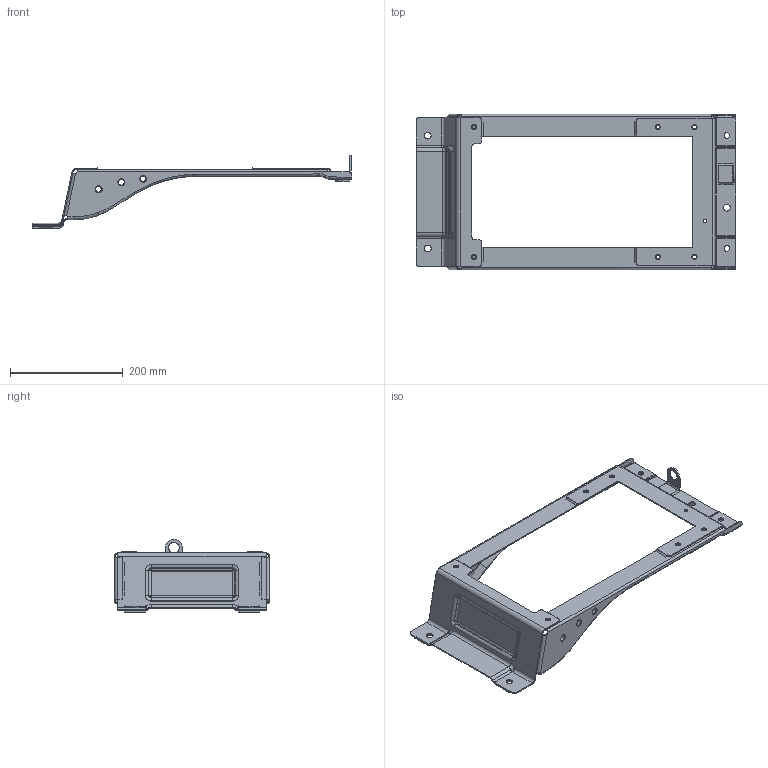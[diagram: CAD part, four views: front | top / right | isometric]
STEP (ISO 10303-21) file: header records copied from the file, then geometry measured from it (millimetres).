
FILE_DESCRIPTION(('CATIA V5 STEP Exchange'),'2;1');
FILE_NAME('F:\福田A6\1-数据\6-冻结数据\第三批\SHT0015987 中宽车底部支架焊接总成\SHT0015987-中宽车主驾驶底部支架焊接总成-20231208\SHT0015987.stp','2024-02-21T12:24:00+00:00',('none'),('none'),'CATIA Version 5 Release 20 GA (IN-10)','CATIA V5 STEP AP214','none');
FILE_SCHEMA(('AUTOMOTIVE_DESIGN { 1 0 10303 214 1 1 1 1 }'));
Length unit declared in the file: millimetre
Products named in the file (1): SHT0015987
Bounding box: 565.39 x 274.99 x 129.9 mm (x, y, z)
Volume: 351285.3 mm3; surface area: 364225.8 mm2
Topology: 39 solids, 39 shells, 969 faces, 2580 edges, 1681 vertices
Faces by surface type: plane 408, cylinder 256, bspline 154, cone 77, torus 46, sphere 28
Entity records: 34337 total; most frequent: CARTESIAN_POINT 12578, ORIENTED_EDGE 5104, DIRECTION 3116, EDGE_CURVE 2552, VERTEX_POINT 1681, AXIS2_PLACEMENT_3D 1235, VECTOR 1167, LINE 1167
